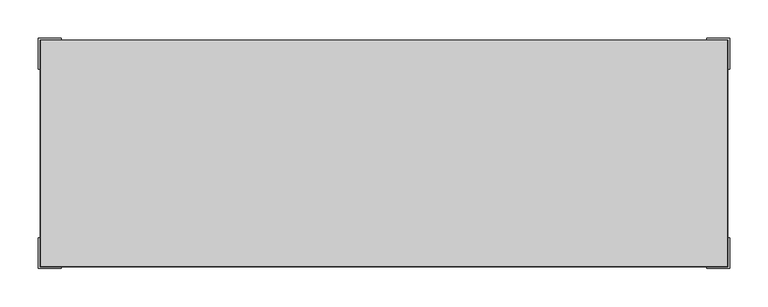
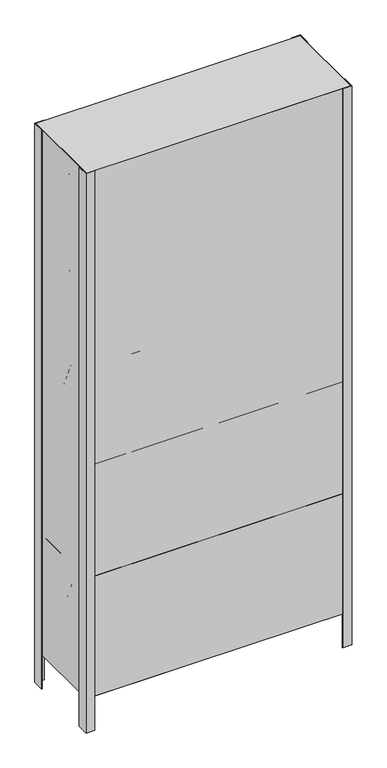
"""IFC4 building model written with IfcOpenShell, lengths in millimetres: furniture geometry, FDE_ES05_EstanteParaExposição : ES05_EstanteParaExposição."""

from ifc_helpers import new_model, si_unit, frame, origin, origin_with_axes, place, context, project, spatial, polyline, outline, extrude, source, transform, mapped, element, save


def furniture_b24cb028(model_context):
    return source(origin(), model_context, "Body", "SweptSolid", [
        extrude(outline(polyline([(-47.047357, 917.8805889), (110.0, 550.0), (70.6304041, 565.8124924), (-74.6384011, 906.1020371), (-47.047357, 917.8805889)])), frame((-446.0, 0.0, 0.0), z_axis=(1.0, 0.0, 0.0), x_axis=(0.0, 1.0, 0.0)), (0.0, 0.0, 1.0), 892.0),
        extrude(outline(polyline([(-47.047357, 517.8805889), (110.0, 150.0), (70.6304041, 165.8124924), (-74.6384011, 506.1020371), (-47.047357, 517.8805889)])), frame((-446.0, 0.0, 0.0), z_axis=(1.0, 0.0, 0.0), x_axis=(0.0, 1.0, 0.0)), (0.0, 0.0, 1.0), 892.0),
        extrude(outline(polyline([(-29.7838898, 1270.8745302), (110.0, 950.0), (70.5149926, 965.5220549), (-57.287421, 1258.893054), (-29.7838898, 1270.8745302)])), frame((-446.0, 0.0, 0.0), z_axis=(1.0, 0.0, 0.0), x_axis=(0.0, 1.0, 0.0)), (0.0, 0.0, 1.0), 892.0),
        extrude(outline(polyline([(-29.7838898, 1620.8745302), (110.0, 1300.0), (70.5149926, 1315.5220549), (-57.287421, 1608.893054), (-29.7838898, 1620.8745302)])), frame((-446.0, 0.0, 0.0), z_axis=(1.0, 0.0, 0.0), x_axis=(0.0, 1.0, 0.0)), (0.0, 0.0, 1.0), 892.0),
        extrude(outline(polyline([(-29.7838898, 1970.8745302), (110.0, 1650.0), (70.5149926, 1665.5220549), (-57.287421, 1958.893054), (-29.7838898, 1970.8745302)])), frame((-446.0, 0.0, 0.0), z_axis=(1.0, 0.0, 0.0), x_axis=(0.0, 1.0, 0.0)), (0.0, 0.0, 1.0), 892.0),
        extrude(outline(polyline([(446.95, -147.15), (-446.95, -147.15), (-446.95, 147.75), (446.95, 147.75), (446.95, -147.15)])), frame((0.0, 0.0, 1970.0), z_axis=(0.0, 0.0, 1.0), x_axis=(1.0, 0.0, 0.0)), (0.0, 0.0, 1.0), 30.0),
        extrude(outline(polyline([(446.95, -147.15), (-446.95, -147.15), (-446.95, 147.75), (446.95, 147.75), (446.95, -147.15)])), frame((0.0, 0.0, 1620.0), z_axis=(0.0, 0.0, 1.0), x_axis=(1.0, 0.0, 0.0)), (0.0, 0.0, 1.0), 30.0),
        extrude(outline(polyline([(446.95, -147.15), (-446.95, -147.15), (-446.95, 147.75), (446.95, 147.75), (446.95, -147.15)])), frame((0.0, 0.0, 1270.0), z_axis=(0.0, 0.0, 1.0), x_axis=(1.0, 0.0, 0.0)), (0.0, 0.0, 1.0), 30.0),
        extrude(outline(polyline([(446.95, -147.15), (-446.95, -147.15), (-446.95, 147.75), (446.95, 147.75), (446.95, -147.15)])), frame((0.0, 0.0, 920.0), z_axis=(0.0, 0.0, 1.0), x_axis=(1.0, 0.0, 0.0)), (0.0, 0.0, 1.0), 30.0),
        extrude(outline(polyline([(446.95, -147.15), (-446.95, -147.15), (-446.95, 147.75), (446.95, 147.75), (446.95, -147.15)])), frame((0.0, 0.0, 520.0), z_axis=(0.0, 0.0, 1.0), x_axis=(1.0, 0.0, 0.0)), (0.0, 0.0, 1.0), 30.0),
        extrude(outline(polyline([(446.95, -147.15), (-446.95, -147.15), (-446.95, 147.75), (446.95, 147.75), (446.95, -147.15)])), frame((0.0, 0.0, 120.0), z_axis=(0.0, 0.0, 1.0), x_axis=(1.0, 0.0, 0.0)), (0.0, 0.0, 1.0), 30.0),
        extrude(outline(polyline([(447.75, -147.75), (-447.75, -147.75), (-447.75, 147.75), (-446.95, 147.75), (-446.95, -147.15), (446.95, -147.15), (446.95, 147.75), (447.75, 147.75), (447.75, -147.75)])), frame((0.0, 0.0, 120.0), z_axis=(0.0, 0.0, 1.0), x_axis=(1.0, 0.0, 0.0)), (0.0, 0.0, 1.0), 1880.0),
        extrude(outline(polyline([(-420.0, -150.0), (-450.0, -150.0), (-450.0, -110.0), (-447.75, -110.0), (-447.75, -147.75), (-420.0, -147.75), (-420.0, -150.0)])), origin_with_axes(), (0.0, 0.0, 1.0), 2000.0),
        extrude(outline(polyline([(420.0, -150.0), (420.0, -147.75), (447.75, -147.75), (447.75, -110.0), (450.0, -110.0), (450.0, -150.0), (420.0, -150.0)])), origin_with_axes(), (0.0, 0.0, 1.0), 2000.0),
        extrude(outline(polyline([(-420.0, 150.0), (-420.0, 147.75), (-447.75, 147.75), (-447.75, 110.0), (-450.0, 110.0), (-450.0, 150.0), (-420.0, 150.0)])), origin_with_axes(), (0.0, 0.0, 1.0), 2000.0),
        extrude(outline(polyline([(420.0, 150.0), (450.0, 150.0), (450.0, 110.0), (447.75, 110.0), (447.75, 147.75), (420.0, 147.75), (420.0, 150.0)])), origin_with_axes(), (0.0, 0.0, 1.0), 2000.0),
    ])


if __name__ == "__main__":
    model = new_model("IFC4")
    model_context = context("Model", 3, world=origin())
    ifc_project = project(units=[si_unit("LENGTHUNIT", "METRE", prefix="MILLI")], contexts=[model_context])
    site = spatial("IfcSite", under=ifc_project)
    building = spatial("IfcBuilding", under=site)
    placement = place(None, origin())
    furniture_shape = furniture_b24cb028(model_context)
    element("IfcFurniture", 1, ObjectType="FDE_ES05_EstanteParaExposição : ES05_EstanteParaExposição", at=placement, inside=building, context=model_context, shape_type="MappedRepresentation", body=[
        mapped(furniture_shape, transform((0.0, 0.0, 0.0), x_axis=(1.0, 0.0, 0.0), y_axis=(0.0, 1.0, 0.0), z_axis=(0.0, 0.0, 1.0))),
    ])
    save(model, "model.ifc")
